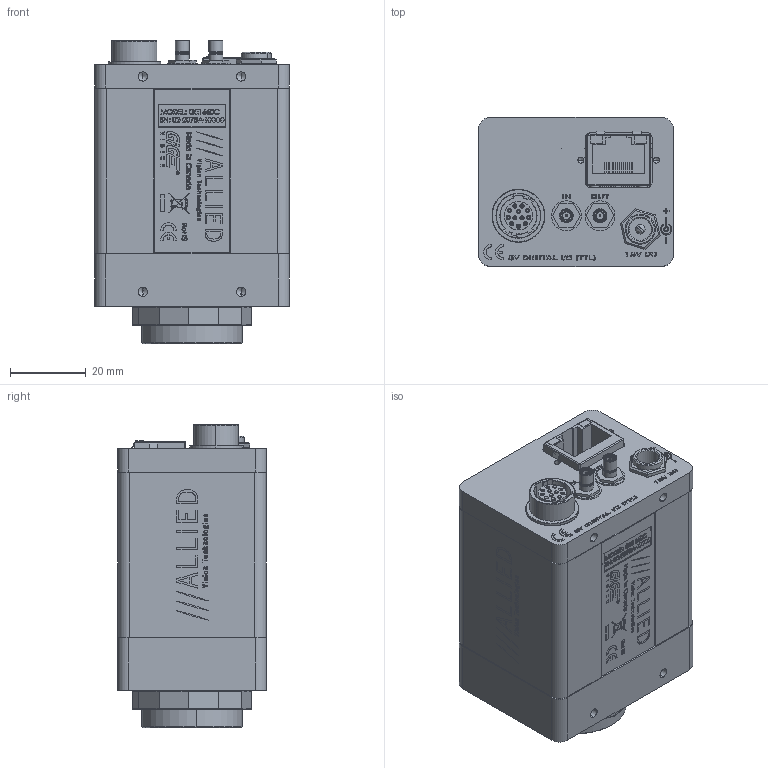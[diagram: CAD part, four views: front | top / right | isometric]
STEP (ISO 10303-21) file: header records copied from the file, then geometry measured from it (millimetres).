
FILE_DESCRIPTION (( 'STEP AP214' ), '1' );
FILE_NAME ('GE1660C.STEP', '2013-07-31T21:32:37', ( '' ), ( '' ), 'SwSTEP 2.0', 'SolidWorks 2013', '' );
FILE_SCHEMA (( 'AUTOMOTIVE_DESIGN' ));
Length unit declared in the file: millimetre
Products named in the file (37): 100051B - GE BACKPLATE ASSY; 220140-KODAK KAI-02050-CBA; 140000-AMPHENOL 903-10408-1; KODAK KAI-02050 BODY; 260014-SWITCHCRAFT PC712A; KODAK KAI-02050 WINDOW; 140034-SWITCHCRAFT P10149 WITH WIRE; 110031A-B EC-CCD LOCKING RING; 270006-JUMPER WIRE 18MM LONG; 110053AA-GE KODAK 2M CCD DUST SHIELD GASKET; 140034-SWITCHCRAFT P10149; 260014-SWITCHCRAFT PC712A NUT; 110085A-GE1050 FRONT PLATE; 110033B-C GE BACK PLATE; 100097A-IR FILTER ASSEMBLY 0.75 INCH; 260009-AMPHENOL 903-406J-51R; 440002-IR CUT FILTER 22MM DIA; 260010-HIROSE HR10A-10R-12SB; 110054AB-IR FILTER SUPPORT; 260010-HIROSE HR10A-10R-12SB WASHER; 110003AC-CV CMOUNT RING; 260010-HIROSE HR10A-10R-12SB NUT; 140008-washer spring lock #4; 100000AA-CV SMB GROUNDING ASSEMBLY; 110036B GE COVER EXTRUDED SHORT WITH LOGO_Finished; 140001-AMPHENOL 903-10409-1; 740086A-GE1660C LABEL PRINT; 270006-JUMPER WIRE MODIFIED; 140007-screw socket head cap #4-40x2; 140002-KEYSTONE 349; 140015-screw pan head phillips 4-40 x 0.1875; 100137A - GE CAMERA BACK ASSEMBLY - for GE KODAK 1M2M; GE1660C; 200031B-A GE INTERFACE PCB ASSY; 740031B-GE SERIES LABEL; 260029 BELFUSE 0826-1C1T-23; 100155A-GE1660C FRONT ASSY
Assembly tree (50 placements, depth 5):
  GE1660C
    140007-screw socket head cap #4-40x2  x4
    740086A-GE1660C LABEL PRINT
    110036B GE COVER EXTRUDED SHORT WITH LOGO_Finished
    140008-washer spring lock #4  x4
    100155A-GE1660C FRONT ASSY
      110003AC-CV CMOUNT RING
      100097A-IR FILTER ASSEMBLY 0.75 INCH
        110054AB-IR FILTER SUPPORT
        440002-IR CUT FILTER 22MM DIA
      110085A-GE1050 FRONT PLATE
      110053AA-GE KODAK 2M CCD DUST SHIELD GASKET
      110031A-B EC-CCD LOCKING RING
      220140-KODAK KAI-02050-CBA
        KODAK KAI-02050 WINDOW
        KODAK KAI-02050 BODY
    740031B-GE SERIES LABEL
    100137A - GE CAMERA BACK ASSEMBLY - for GE KODAK 1M2M
      140015-screw pan head phillips 4-40 x 0.1875
      100051B - GE BACKPLATE ASSY
        140002-KEYSTONE 349  x4
        100000AA-CV SMB GROUNDING ASSEMBLY  x2
          270006-JUMPER WIRE MODIFIED
          140001-AMPHENOL 903-10409-1
        260010-HIROSE HR10A-10R-12SB NUT
        260010-HIROSE HR10A-10R-12SB WASHER
        260010-HIROSE HR10A-10R-12SB
        260009-AMPHENOL 903-406J-51R  x2
        110033B-C GE BACK PLATE
        260014-SWITCHCRAFT PC712A NUT
        140034-SWITCHCRAFT P10149 WITH WIRE
          140034-SWITCHCRAFT P10149
          270006-JUMPER WIRE 18MM LONG
        260014-SWITCHCRAFT PC712A
        140000-AMPHENOL 903-10408-1  x2
      200031B-A GE INTERFACE PCB ASSY
        260029 BELFUSE 0826-1C1T-23
      140008-washer spring lock #4  x2
Bounding box: 51.56 x 39.37 x 80.32 mm (x, y, z)
Volume: 49435.8 mm3; surface area: 69686.5 mm2
Topology: 74 solids, 74 shells, 3969 faces, 9951 edges, 6491 vertices
Faces by surface type: plane 2071, bspline 905, cylinder 733, cone 260
Entity records: 186809 total; most frequent: CARTESIAN_POINT 58787, ORIENTED_EDGE 18756, DIRECTION 15032, EDGE_CURVE 9378, VERTEX_POINT 6149, VECTOR 6044, LINE 6044, AXIS2_PLACEMENT_3D 4494
